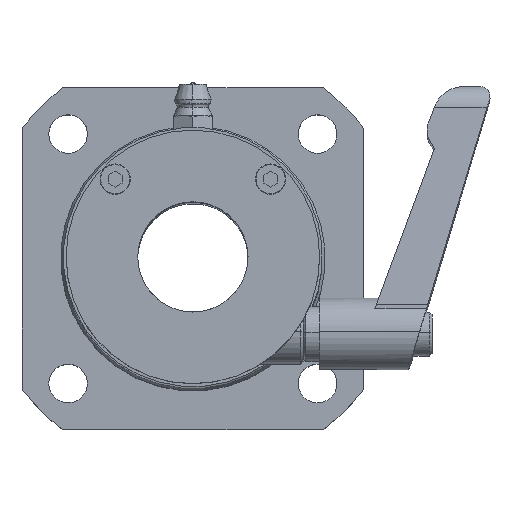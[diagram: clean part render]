
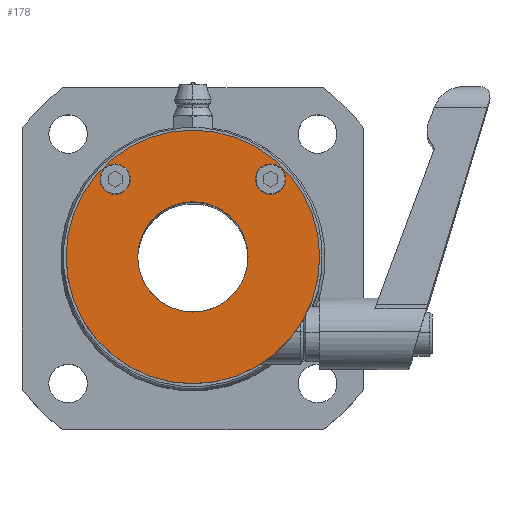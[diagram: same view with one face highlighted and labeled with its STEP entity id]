
A CAD part, top view. The second image highlights one B-rep face of the part: STEP entity #178.
In plain terms, the highlighted planar face has unit normal (0, 0, 1).
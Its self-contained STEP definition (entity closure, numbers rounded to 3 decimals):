
#36 = CIRCLE ( 'NONE', #7761, 10. ) ;
#178 = ADVANCED_FACE ( 'NONE', ( #3988, #5015, #10881, #4151 ), #770, .T. ) ;
#367 = EDGE_LOOP ( 'NONE', ( #3971, #7788 ) ) ;
#453 = EDGE_LOOP ( 'NONE', ( #7556, #512 ) ) ;
#512 = ORIENTED_EDGE ( 'NONE', *, *, #10289, .F. ) ;
#738 = CARTESIAN_POINT ( 'NONE',  ( -12.686, 21.331, 52.89 ) ) ;
#770 = PLANE ( 'NONE',  #10594 ) ;
#1014 = DIRECTION ( 'NONE',  ( 0., 0., 1. ) ) ;
#1036 = EDGE_CURVE ( 'NONE', #6179, #3182, #7364, .T. ) ;
#1382 = AXIS2_PLACEMENT_3D ( 'NONE', #2820, #6262, #6308 ) ;
#1498 = ORIENTED_EDGE ( 'NONE', *, *, #2105, .F. ) ;
#1629 = DIRECTION ( 'NONE',  ( 1., 0., 0. ) ) ;
#2050 = DIRECTION ( 'NONE',  ( 0., -1., 0. ) ) ;
#2092 = DIRECTION ( 'NONE',  ( 0., 0., 1. ) ) ;
#2105 = EDGE_CURVE ( 'NONE', #4428, #11035, #36, .T. ) ;
#2130 = CARTESIAN_POINT ( 'NONE',  ( -9.936, 21.331, 52.89 ) ) ;
#2290 = DIRECTION ( 'NONE',  ( 0., -1., 0. ) ) ;
#2310 = DIRECTION ( 'NONE',  ( 0., 0., 1. ) ) ;
#2333 = CARTESIAN_POINT ( 'NONE',  ( -15.436, 21.331, 52.89 ) ) ;
#2357 = DIRECTION ( 'NONE',  ( 0., -1., 0. ) ) ;
#2680 = DIRECTION ( 'NONE',  ( 0., -1., 0. ) ) ;
#2756 = VERTEX_POINT ( 'NONE', #7585 ) ;
#2820 = CARTESIAN_POINT ( 'NONE',  ( 15.514, 21.331, 52.89 ) ) ;
#3182 = VERTEX_POINT ( 'NONE', #5053 ) ;
#3483 = CARTESIAN_POINT ( 'NONE',  ( 1.414, 17.231, 52.89 ) ) ;
#3891 = CARTESIAN_POINT ( 'NONE',  ( 12.764, 21.331, 52.89 ) ) ;
#3947 = EDGE_CURVE ( 'NONE', #9337, #7864, #4202, .T. ) ;
#3971 = ORIENTED_EDGE ( 'NONE', *, *, #6095, .F. ) ;
#3988 = FACE_BOUND ( 'NONE', #367, .T. ) ;
#4151 = FACE_BOUND ( 'NONE', #6542, .T. ) ;
#4156 = EDGE_CURVE ( 'NONE', #2756, #9784, #5297, .T. ) ;
#4172 = DIRECTION ( 'NONE',  ( 0., 0., 1. ) ) ;
#4202 = CIRCLE ( 'NONE', #4934, 2.75 ) ;
#4428 = VERTEX_POINT ( 'NONE', #3483 ) ;
#4820 = DIRECTION ( 'NONE',  ( 1., 0., 0. ) ) ;
#4934 = AXIS2_PLACEMENT_3D ( 'NONE', #738, #4172, #1629 ) ;
#4977 = ORIENTED_EDGE ( 'NONE', *, *, #6659, .T. ) ;
#5015 = FACE_BOUND ( 'NONE', #453, .T. ) ;
#5053 = CARTESIAN_POINT ( 'NONE',  ( 1.414, 30.231, 52.89 ) ) ;
#5212 = DIRECTION ( 'NONE',  ( 0., 0., 1. ) ) ;
#5297 = CIRCLE ( 'NONE', #8522, 2.75 ) ;
#5658 = CARTESIAN_POINT ( 'NONE',  ( -12.686, 21.331, 52.89 ) ) ;
#6095 = EDGE_CURVE ( 'NONE', #9784, #2756, #6248, .T. ) ;
#6179 = VERTEX_POINT ( 'NONE', #7874 ) ;
#6186 = CIRCLE ( 'NONE', #7608, 2.75 ) ;
#6248 = CIRCLE ( 'NONE', #1382, 2.75 ) ;
#6262 = DIRECTION ( 'NONE',  ( 0., 0., 1. ) ) ;
#6308 = DIRECTION ( 'NONE',  ( 1., 0., 0. ) ) ;
#6479 = DIRECTION ( 'NONE',  ( 1., 0., 0. ) ) ;
#6542 = EDGE_LOOP ( 'NONE', ( #1498, #8939 ) ) ;
#6659 = EDGE_CURVE ( 'NONE', #3182, #6179, #6895, .T. ) ;
#6750 = CIRCLE ( 'NONE', #7990, 10. ) ;
#6895 = CIRCLE ( 'NONE', #9783, 23. ) ;
#7364 = CIRCLE ( 'NONE', #10623, 23. ) ;
#7384 = CARTESIAN_POINT ( 'NONE',  ( 1.414, 7.231, 52.89 ) ) ;
#7524 = CARTESIAN_POINT ( 'NONE',  ( 1.414, 7.231, 52.89 ) ) ;
#7534 = CARTESIAN_POINT ( 'NONE',  ( 1.414, 7.231, 52.89 ) ) ;
#7556 = ORIENTED_EDGE ( 'NONE', *, *, #3947, .F. ) ;
#7574 = ORIENTED_EDGE ( 'NONE', *, *, #1036, .T. ) ;
#7585 = CARTESIAN_POINT ( 'NONE',  ( 18.264, 21.331, 52.89 ) ) ;
#7608 = AXIS2_PLACEMENT_3D ( 'NONE', #5658, #2092, #4820 ) ;
#7761 = AXIS2_PLACEMENT_3D ( 'NONE', #7524, #7797, #2680 ) ;
#7788 = ORIENTED_EDGE ( 'NONE', *, *, #4156, .F. ) ;
#7797 = DIRECTION ( 'NONE',  ( 0., 0., 1. ) ) ;
#7864 = VERTEX_POINT ( 'NONE', #2130 ) ;
#7874 = CARTESIAN_POINT ( 'NONE',  ( 1.414, -15.769, 52.89 ) ) ;
#7990 = AXIS2_PLACEMENT_3D ( 'NONE', #8647, #5212, #9596 ) ;
#8259 = CARTESIAN_POINT ( 'NONE',  ( 1.414, -2.769, 52.89 ) ) ;
#8522 = AXIS2_PLACEMENT_3D ( 'NONE', #8752, #1014, #6479 ) ;
#8647 = CARTESIAN_POINT ( 'NONE',  ( 1.414, 7.231, 52.89 ) ) ;
#8752 = CARTESIAN_POINT ( 'NONE',  ( 15.514, 21.331, 52.89 ) ) ;
#8904 = DIRECTION ( 'NONE',  ( 0., 0., 1. ) ) ;
#8939 = ORIENTED_EDGE ( 'NONE', *, *, #10555, .F. ) ;
#9337 = VERTEX_POINT ( 'NONE', #2333 ) ;
#9348 = EDGE_LOOP ( 'NONE', ( #4977, #7574 ) ) ;
#9596 = DIRECTION ( 'NONE',  ( 0., -1., 0. ) ) ;
#9694 = CARTESIAN_POINT ( 'NONE',  ( 1.414, 7.231, 52.89 ) ) ;
#9783 = AXIS2_PLACEMENT_3D ( 'NONE', #7384, #2310, #2357 ) ;
#9784 = VERTEX_POINT ( 'NONE', #3891 ) ;
#10289 = EDGE_CURVE ( 'NONE', #7864, #9337, #6186, .T. ) ;
#10555 = EDGE_CURVE ( 'NONE', #11035, #4428, #6750, .T. ) ;
#10594 = AXIS2_PLACEMENT_3D ( 'NONE', #7534, #10830, #2290 ) ;
#10623 = AXIS2_PLACEMENT_3D ( 'NONE', #9694, #8904, #2050 ) ;
#10830 = DIRECTION ( 'NONE',  ( 0., 0., 1. ) ) ;
#10881 = FACE_OUTER_BOUND ( 'NONE', #9348, .T. ) ;
#11035 = VERTEX_POINT ( 'NONE', #8259 ) ;
